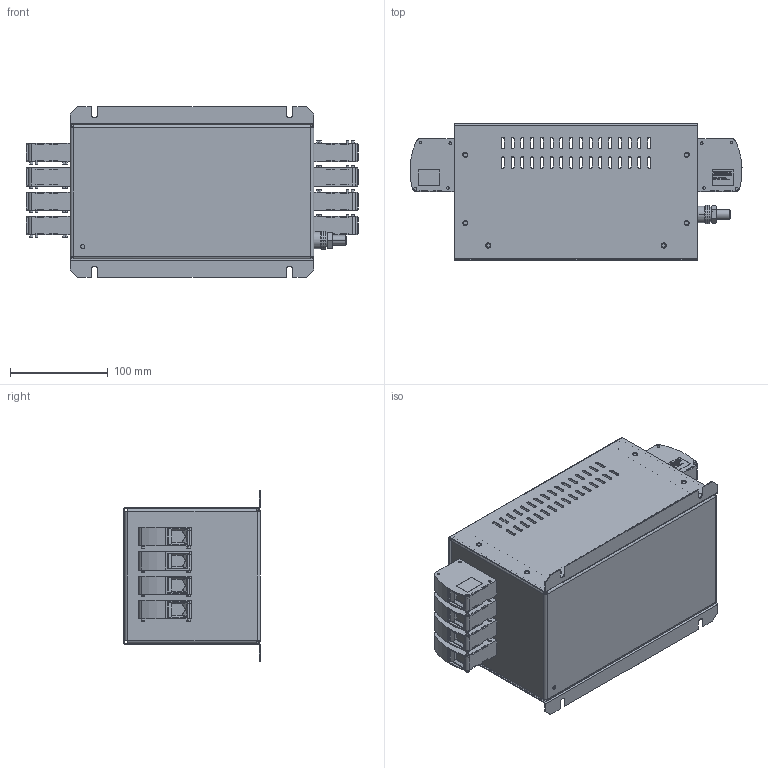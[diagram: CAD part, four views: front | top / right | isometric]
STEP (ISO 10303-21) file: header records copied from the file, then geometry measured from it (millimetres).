
FILE_DESCRIPTION (( 'STEP AP214' ), '1' );
FILE_NAME ('NF-4-120-GTR.STEP', '2026-09-15T13:01:17', ( '' ), ( '' ), 'SwSTEP 2.0', 'SolidWorks 2025', '' );
FILE_SCHEMA (( 'AUTOMOTIVE_DESIGN' ));
Length unit declared in the file: millimetre
Products named in the file (11): KS B 1324 - No. 2 - 8_1; NF-4-120-GTR(2); ANSI B18.2.4.5M - M10 x 1.5_1; 4000-120 lid; 4000-120.0006; UW_50-POT_S-A-select_1; IFI 505 - 43, FHSBMBR_1; 1_2; NF-4-120-GTR; BS EN ISO 4017 - M10 x 35; ANSI B18.22M - 8 N_1
Assembly tree (30 placements, depth 3):
  NF-4-120-GTR
    NF-4-120-GTR(2)
      4000-120.0006
      4000-120 lid
      UW_50-POT_S-A-select_1  x8
      BS EN ISO 4017 - M10 x 35
      1_2
      ANSI B18.22M - 8 N_1  x3
      KS B 1324 - No. 2 - 8_1
      IFI 505 - 43, FHSBMBR_1  x12
      ANSI B18.2.4.5M - M10 x 1.5_1
Bounding box: 340.51 x 140 x 175 mm (x, y, z)
Volume: 579944.3 mm3; surface area: 506718.7 mm2
Topology: 29 solids, 35 shells, 7025 faces, 18951 edges, 12560 vertices
Faces by surface type: plane 5419, cylinder 1096, bspline 296, cone 158, torus 56
Entity records: 50447 total; most frequent: CARTESIAN_POINT 10941, ORIENTED_EDGE 8258, DIRECTION 7809, EDGE_CURVE 4129, VECTOR 3035, LINE 3035, VERTEX_POINT 2700, AXIS2_PLACEMENT_3D 2387
